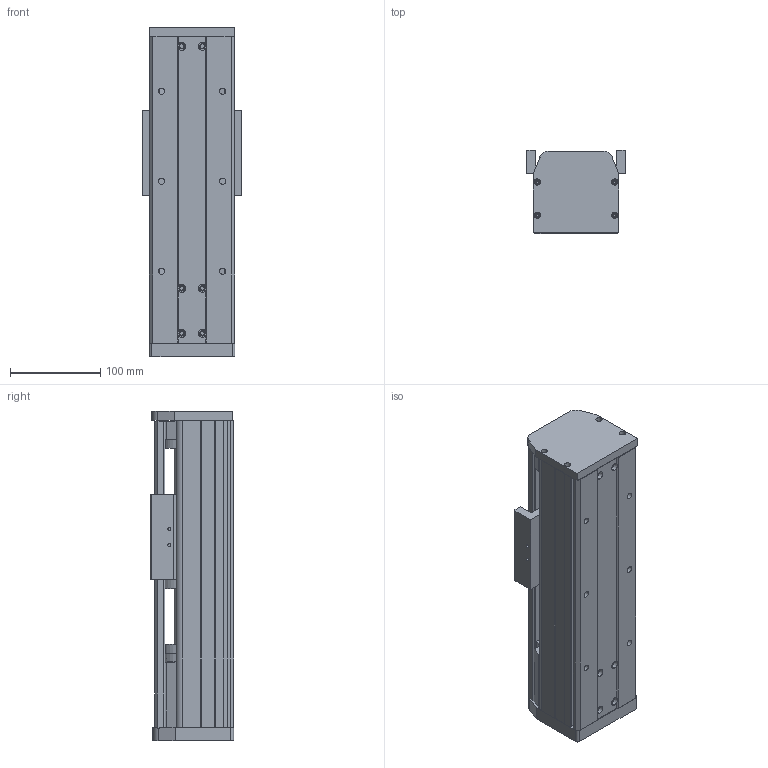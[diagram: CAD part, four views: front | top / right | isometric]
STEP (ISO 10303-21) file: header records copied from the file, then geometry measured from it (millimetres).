
FILE_DESCRIPTION (( 'STEP AP203' ), '1' );
FILE_NAME ('CF95-2-P100.STEP', '2016-03-10T08:28:55', ( 'Sky123.Org' ), ( 'Sky123.Org' ), 'SwSTEP 2.0', 'SolidWorks 2015', '' );
FILE_SCHEMA (( 'CONFIG_CONTROL_DESIGN' ));
Length unit declared in the file: millimetre
Products named in the file (16): 95盓厥傷; 95滅袉蝶菜; 95裔啣-1241; 95粣創裔啣; hGH15CA賑輸; CF95-60伺服电机座（配30-42联轴器）; CF95-2-P100; SFS1605-俴最1000; SFU1605-3; CF95-2-1000臏倰第; 95邧寢賑輸; HGR15-俴最1000-絳寢; CF95固定座（配30-42联轴器）; angular contact ball bearings gb_Rolling bearings S7001 GB 292-94; 95耜啣; deep groove ball bearings gb_Rolling bearings 6001 GB 276-94
Assembly tree (19 placements, depth 2):
  CF95-2-P100
    95邧寢賑輸
    CF95固定座（配30-42联轴器）
    95耜啣
    95盓厥傷
    95裔啣-1241
    hGH15CA賑輸  x2
    SFS1605-俴最1000
    SFU1605-3
    CF95-2-1000臏倰第
    HGR15-俴最1000-絳寢  x2
    angular contact ball bearings gb_Rolling bearings S7001 GB 292-94  x2
    deep groove ball bearings gb_Rolling bearings 6001 GB 276-94
    95滅袉蝶菜  x2
    95粣創裔啣
    CF95-60伺服电机座（配30-42联轴器）
Bounding box: 110 x 92.5 x 366 mm (x, y, z)
Volume: 1706790.3 mm3; surface area: 515722.3 mm2
Topology: 19 solids, 19 shells, 1171 faces, 3701 edges, 2475 vertices
Faces by surface type: cylinder 465, plane 458, torus 159, sphere 84, cone 4, bspline 1
Entity records: 37455 total; most frequent: CARTESIAN_POINT 10467, ORIENTED_EDGE 5416, DIRECTION 5236, EDGE_CURVE 2708, AXIS2_PLACEMENT_3D 2059, VERTEX_POINT 1808, EDGE_LOOP 1150, LINE 1118
